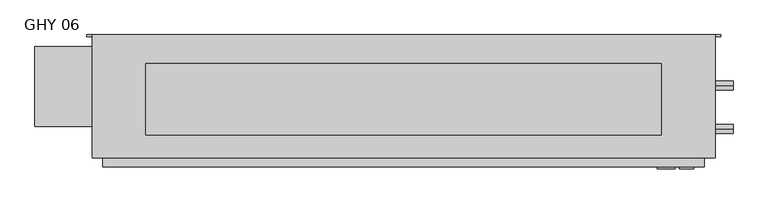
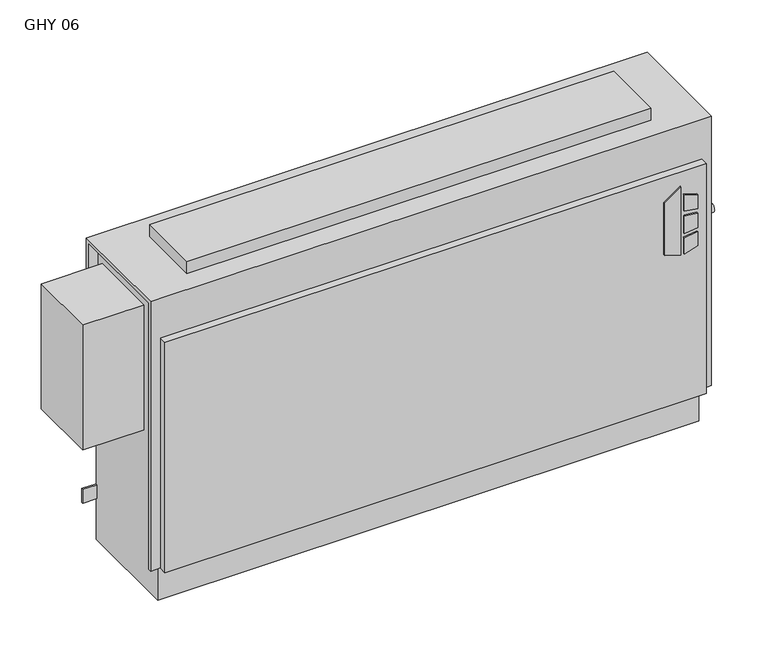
"""IFC4 building model written with IfcOpenShell, lengths in millimetres: proxy geometry, Vertical_Fan_Coil_Unit_-_GHY_-_IEC_-_2-Pipe_TS-FR_RH_2022 : GHY 06."""

import ifcopenshell
import ifcopenshell.guid

model = None  # the IFC model being written
_history = None  # IfcOwnerHistory: only IFC2X3 demands one
_inside = {}  # id of a spatial element -> (the spatial element, [elements in it])
_under = {}  # id of a project, library or spatial element -> (it, [spatial elements below it])
_declared = {}  # id of a project -> (the project, [libraries it declares])
_typed = {}  # id of a type object -> (the type object, [elements of that type])
_made_of = {}  # id of a material, layer set ... -> (it, [elements and type objects made of it])


def new_model(schema):
    """Start an empty IFC model of exactly this schema.

    Asked for "IFC4X3", IfcOpenShell would pick the latest addendum, in which some entities
    have other attributes; the version numbers below select the first issue.
    IFC2X3 requires an IfcOwnerHistory on every rooted entity: one is made here for all.
    """
    global model, _history
    if schema == "IFC4X3":
        model = ifcopenshell.file(schema_version=(4, 3, 0, 0))
    else:
        model = ifcopenshell.file(schema=schema)
    _inside.clear()
    _under.clear()
    _declared.clear()
    _typed.clear()
    _made_of.clear()
    _history = None
    if model.schema == "IFC2X3":
        org = make("IfcOrganization", Name="unknown")
        user = make(
            "IfcPersonAndOrganization",
            ThePerson=make("IfcPerson", FamilyName="unknown"),
            TheOrganization=org,
        )
        app = make(
            "IfcApplication",
            ApplicationDeveloper=org,
            Version="unknown",
            ApplicationFullName="unknown",
            ApplicationIdentifier="unknown",
        )
        _history = make(
            "IfcOwnerHistory",
            OwningUser=user,
            OwningApplication=app,
            ChangeAction="ADDED",
            CreationDate=0,
        )
    return model


def make(cls, **values):
    """One entity of the class cls with the attributes given. An attribute that is None is left unset."""
    return model.create_entity(
        cls, **{name: value for name, value in values.items() if value is not None}
    )


def rooted(cls, **values):
    """An entity with a GlobalId (a new one), such as an element, a storey or a relation."""
    return make(cls, GlobalId=ifcopenshell.guid.new(), OwnerHistory=_history, **values)


def si_unit(unit_type, name, prefix=None):
    """IfcSIUnit, for example si_unit("LENGTHUNIT", "METRE", prefix="MILLI")."""
    return make("IfcSIUnit", UnitType=unit_type, Prefix=prefix, Name=name)


def assignment(units):
    """IfcUnitAssignment: the units of a project."""
    return None if units is None else make("IfcUnitAssignment", Units=units)


def point(xyz):
    """IfcCartesianPoint."""
    return None if xyz is None else make("IfcCartesianPoint", Coordinates=xyz)


def direction(xyz):
    """IfcDirection."""
    return None if xyz is None else make("IfcDirection", DirectionRatios=xyz)


def frame(location, z_axis=None, x_axis=None):
    """IfcAxis2Placement3D, a coordinate frame: its origin and axes. An axis left out is left unset."""
    return make(
        "IfcAxis2Placement3D",
        Location=point(location),
        Axis=direction(z_axis),
        RefDirection=direction(x_axis),
    )


def frame_2d(location, x_axis=None):
    """IfcAxis2Placement2D, a coordinate frame in the plane: its origin and x axis."""
    return make(
        "IfcAxis2Placement2D", Location=point(location), RefDirection=direction(x_axis)
    )


def origin():
    """The frame at (0, 0, 0) with its axes left unset."""
    return frame((0.0, 0.0, 0.0))


def place(relative_to, where):
    """IfcLocalPlacement: puts the frame where relative to a parent placement (None: the world)."""
    return make(
        "IfcLocalPlacement", PlacementRelTo=relative_to, RelativePlacement=where
    )


def context(
    kind, dimensions, precision=None, world=None, true_north=None, identifier=None
):
    """IfcGeometricRepresentationContext, for example the 3D "Model" context."""
    return make(
        "IfcGeometricRepresentationContext",
        ContextIdentifier=identifier,
        ContextType=kind,
        CoordinateSpaceDimension=dimensions,
        Precision=precision,
        WorldCoordinateSystem=world,
        TrueNorth=true_north,
    )


def project(units=None, contexts=None):
    """IfcProject with its units and contexts."""
    return rooted(
        "IfcProject",
        Name="project",
        RepresentationContexts=contexts,
        UnitsInContext=assignment(units),
    )


def spatial(cls, under=None, at=None, **own):
    """A site, building, storey or space (cls), placed at a placement, below another one or the project."""
    s = rooted(cls, ObjectPlacement=at, **own)
    if under is not None:
        _under.setdefault(under.id(), (under, []))[1].append(s)
    return s


def polyline(points):
    """IfcPolyline through the points."""
    return make("IfcPolyline", Points=[point(p) for p in points])


def circle_curve(where, radius):
    """IfcCircle in the frame where."""
    return make("IfcCircle", Position=where, Radius=radius)


def trimmed(basis, trim1, trim2, sense, master):
    """IfcTrimmedCurve: the piece of a basis curve between two trims."""
    return make(
        "IfcTrimmedCurve",
        BasisCurve=basis,
        Trim1=trim1,
        Trim2=trim2,
        SenseAgreement=sense,
        MasterRepresentation=master,
    )


def segment(curve, same_sense, transition):
    """IfcCompositeCurveSegment."""
    return make(
        "IfcCompositeCurveSegment",
        Transition=transition,
        SameSense=same_sense,
        ParentCurve=curve,
    )


def composite_curve(segments, self_intersect=None):
    """IfcCompositeCurve: segments joined end to end."""
    return make("IfcCompositeCurve", Segments=segments, SelfIntersect=self_intersect)


def outline(outer, holes=None, kind="AREA"):
    """IfcArbitraryClosedProfileDef: a profile drawn as a closed curve; with holes, ...WithVoids."""
    if holes is None:
        return make("IfcArbitraryClosedProfileDef", ProfileType=kind, OuterCurve=outer)
    return make(
        "IfcArbitraryProfileDefWithVoids",
        ProfileType=kind,
        OuterCurve=outer,
        InnerCurves=holes,
    )


def extrude(swept, where, along, depth):
    """IfcExtrudedAreaSolid: the profile swept, set in the frame where, extruded along a direction by depth."""
    return make(
        "IfcExtrudedAreaSolid",
        SweptArea=swept,
        Position=where,
        ExtrudedDirection=direction(along),
        Depth=depth,
    )


def shape(context_of_items, identifier, shape_type, items):
    """IfcShapeRepresentation: the items that make up one representation, for example the "Body"."""
    return make(
        "IfcShapeRepresentation",
        ContextOfItems=context_of_items,
        RepresentationIdentifier=identifier,
        RepresentationType=shape_type,
        Items=items,
    )


def source(mapping_origin, context_of_items, identifier, shape_type, items):
    """IfcRepresentationMap: a shape defined once, which mapped items show again and again."""
    return make(
        "IfcRepresentationMap",
        MappingOrigin=mapping_origin,
        MappedRepresentation=shape(context_of_items, identifier, shape_type, items),
    )


def transform(
    local_origin,
    x_axis=None,
    y_axis=None,
    z_axis=None,
    scale=None,
    scale2=None,
    scale3=None,
    uniform=True,
):
    """IfcCartesianTransformationOperator3D, or its non-uniform kind. x_axis, y_axis, z_axis: its Axis1, 2, 3."""
    if uniform:
        return make(
            "IfcCartesianTransformationOperator3D",
            Axis1=direction(x_axis),
            Axis2=direction(y_axis),
            LocalOrigin=point(local_origin),
            Scale=scale,
            Axis3=direction(z_axis),
        )
    return make(
        "IfcCartesianTransformationOperator3DnonUniform",
        Axis1=direction(x_axis),
        Axis2=direction(y_axis),
        LocalOrigin=point(local_origin),
        Scale=scale,
        Axis3=direction(z_axis),
        Scale2=scale2,
        Scale3=scale3,
    )


def mapped(mapping_source, mapping_target):
    """IfcMappedItem: shows the shape of a source again, moved by a transform."""
    return make(
        "IfcMappedItem", MappingSource=mapping_source, MappingTarget=mapping_target
    )


def made_of(thing, what):
    """Note that an element or type object is made of a material, layer set ...; save() writes the relation."""
    if what is not None:
        _made_of.setdefault(what.id(), (what, []))[1].append(thing)
    return thing


def element(
    cls,
    number,
    at=None,
    inside=None,
    cuts=None,
    type_object=None,
    material=None,
    context=None,
    identifier="Body",
    shape_type=None,
    held_by="IfcProductDefinitionShape",
    body=None,
    shapes=None,
    **own,
):
    """One element of the class cls, such as IfcWall. Its Tag is "e" and its number.

    at: its placement. inside: the storey or other place that contains it. cuts: it is an
    opening in that element (IfcRelVoidsElement). A single representation is given by context,
    identifier, shape_type and body (its items); several are given by shapes. held_by: the class
    of the entity that holds the representations. save() writes the other relations.
    """
    e = rooted(cls, Tag="e%d" % number, ObjectPlacement=at, **own)
    if body is not None:
        shapes = [shape(context, identifier, shape_type, body)]
    if shapes is not None:
        e.Representation = make(held_by, Representations=shapes)
    if inside is not None:
        _inside.setdefault(inside.id(), (inside, []))[1].append(e)
    if cuts is not None:
        rooted(
            "IfcRelVoidsElement", RelatingBuildingElement=cuts, RelatedOpeningElement=e
        )
    if type_object is not None:
        _typed.setdefault(type_object.id(), (type_object, []))[1].append(e)
    return made_of(e, material)


def aggregate(whole, parts):
    """IfcRelAggregates: a whole, such as a stair, and the parts it consists of."""
    return rooted("IfcRelAggregates", RelatingObject=whole, RelatedObjects=parts)


def save(model, path):
    """Write the relations noted so far, then the file.

    IfcRelAggregates (storeys below a building ...), IfcRelContainedInSpatialStructure (elements
    in a storey), IfcRelDefinesByType, IfcRelAssociatesMaterial and IfcRelDeclares: one each for
    every whole, place, type object, material and project.
    """
    for whole, parts in _under.values():
        aggregate(whole, parts)
    for where, things in _inside.values():
        rooted(
            "IfcRelContainedInSpatialStructure",
            RelatedElements=things,
            RelatingStructure=where,
        )
    for kind, things in _typed.values():
        rooted("IfcRelDefinesByType", RelatedObjects=things, RelatingType=kind)
    for what, things in _made_of.values():
        rooted("IfcRelAssociatesMaterial", RelatedObjects=things, RelatingMaterial=what)
    for by, libraries in _declared.values():
        rooted("IfcRelDeclares", RelatingContext=by, RelatedDefinitions=libraries)
    model.write(path)


def plane_surface(at):
    """IfcPlane: the flat surface through the origin of the frame at, square to its z axis."""
    return make("IfcPlane", Position=at)


def revolved_surface(curve, axis_point, axis_direction):
    """IfcSurfaceOfRevolution: the curve turned about the line through axis_point along axis_direction."""
    return make(
        "IfcSurfaceOfRevolution",
        SweptCurve=make("IfcArbitraryOpenProfileDef", ProfileType="CURVE", Curve=curve),
        AxisPosition=make("IfcAxis1Placement", Location=point(axis_point), Axis=direction(axis_direction)),
    )


def advanced_brep(points, edges, surfaces, faces):
    """IfcAdvancedBrep: a solid bounded by faces that lie on surfaces and meet in shared edges.

    An edge is (start, end): straight between two places in points (the first is 0);
    or (start, end, curve); or (start, end, curve, False) where it runs against its curve.
    A face is (place in surfaces, loops), or (place, loops, False) where it looks against
    its surface's normal. A loop lists edges by number (the first is 1), with a minus sign
    where the edge is run from its end to its start. The first loop is the outer one.
    """
    corners = [point(p) for p in points]
    vertices = [make("IfcVertexPoint", VertexGeometry=c) for c in corners]
    made = []
    for start, end, *more in edges:
        made.append(
            make(
                "IfcEdgeCurve",
                EdgeStart=vertices[start],
                EdgeEnd=vertices[end],
                EdgeGeometry=more[0] if more else make("IfcPolyline", Points=[corners[start], corners[end]]),
                SameSense=more[1] if len(more) > 1 else True,
            )
        )
    hull = []
    for where, loops, *sense in faces:
        bounds = []
        for j, loop in enumerate(loops):
            ring = [make("IfcOrientedEdge", EdgeElement=made[abs(k) - 1], Orientation=k > 0) for k in loop]
            bounds.append(
                make(
                    "IfcFaceOuterBound" if j == 0 else "IfcFaceBound",
                    Bound=make("IfcEdgeLoop", EdgeList=ring),
                    Orientation=True,
                )
            )
        hull.append(make("IfcAdvancedFace", Bounds=bounds, FaceSurface=surfaces[where], SameSense=sense[0] if sense else True))
    return make("IfcAdvancedBrep", Outer=make("IfcClosedShell", CfsFaces=hull))


def ghy_06_6341c722(model_context):
    return source(origin(), model_context, "Body", "SolidModel", [
        extrude(outline(polyline([(391.6086829, 601.7368862), (381.6606126, 633.9102728), (523.831537, 633.9102728), (500.8095309, 601.7368862), (391.6086829, 601.7368862)])), frame((0.0, 6.35, 0.0), z_axis=(0.0, 1.0, 0.0), x_axis=(0.0, 0.0, 1.0)), (0.0, 0.0, 1.0), 3.175),
        extrude(outline(polyline([(470.6079683, 640.6686058), (467.4055757, 666.75), (496.6344168, 666.75), (504.6988318, 640.6686058), (470.6079683, 640.6686058)])), frame((0.0, 6.35, 0.0), z_axis=(0.0, 1.0, 0.0), x_axis=(0.0, 0.0, 1.0)), (0.0, 0.0, 1.0), 3.175),
        extrude(outline(polyline([(418.7444414, 666.75), (415.0789404, 640.6686058), (381.6606126, 640.6686058), (390.2948498, 666.75), (418.7444414, 666.75)])), frame((0.0, 6.35, 0.0), z_axis=(0.0, 1.0, 0.0), x_axis=(0.0, 0.0, 1.0)), (0.0, 0.0, 1.0), 3.175),
        extrude(outline(polyline([(458.0596028, 666.75), (460.3414292, 640.6686058), (424.4038806, 640.6686058), (427.1451456, 666.75), (458.0596028, 666.75)])), frame((0.0, 6.35, 0.0), z_axis=(0.0, 1.0, 0.0), x_axis=(0.0, 0.0, 1.0)), (0.0, 0.0, 1.0), 3.175),
        extrude(outline(polyline([(609.6, 193.675), (609.6, 66.675), (-304.8, 66.675), (-304.8, 193.675), (609.6, 193.675)])), frame((0.0, 0.0, 635.0), z_axis=(0.0, 0.0, 1.0), x_axis=(1.0, 0.0, 0.0)), (0.0, 0.0, 1.0), 25.4),
        extrude(outline(composite_curve([segment(trimmed(circle_curve(frame_2d((77.597, 401.574)), 7.9375), [point((77.597, 393.6365))], [point((77.597, 409.5115))], False, "CARTESIAN"), True, "CONTINUOUS"), segment(trimmed(circle_curve(frame_2d((77.597, 401.574)), 7.9375), [point((77.597, 409.5115))], [point((77.597, 393.6365))], False, "CARTESIAN"), True, "CONTINUOUS")], self_intersect=False)), frame((685.8, 0.0, 0.0), z_axis=(1.0, 0.0, 0.0), x_axis=(0.0, 1.0, 0.0)), (0.0, 0.0, 1.0), 50.8),
        extrude(outline(composite_curve([segment(trimmed(circle_curve(frame_2d((154.559, 540.512)), 7.9375), [point((154.559, 532.5745))], [point((154.559, 548.4495))], False, "CARTESIAN"), True, "CONTINUOUS"), segment(trimmed(circle_curve(frame_2d((154.559, 540.512)), 7.9375), [point((154.559, 548.4495))], [point((154.559, 532.5745))], False, "CARTESIAN"), True, "CONTINUOUS")], self_intersect=False)), frame((685.8, 0.0, 0.0), z_axis=(1.0, 0.0, 0.0), x_axis=(0.0, 1.0, 0.0)), (0.0, 0.0, 1.0), 50.8),
        extrude(outline(polyline([(-501.65, 223.266), (-381.0, 223.266), (-381.0, 81.534), (-501.65, 81.534), (-501.65, 223.266)])), frame((0.0, 0.0, 327.025), z_axis=(0.0, 0.0, 1.0), x_axis=(1.0, 0.0, 0.0)), (0.0, 0.0, 1.0), 260.35),
        advanced_brep(
        [(704.85, 244.475, 635.0), (-400.05, 244.475, 635.0), (-400.05, 25.4, 635.0), (704.85, 25.4, 635.0), (-381.0, 244.475, 0.0), (685.8, 244.475, 0.0), (685.8, 34.925, 0.0), (-381.0, 34.925, 0.0), (704.85, 244.475, 558.8), (685.8, 244.475, 558.8), (685.8, 244.475, 414.3375), (714.375, 244.475, 414.3375), (714.375, 244.475, 385.7625), (685.8, 244.475, 385.7625), (685.8, 244.475, 287.3375), (714.375, 244.475, 287.3375), (714.375, 244.475, 258.7625), (685.8, 244.475, 258.7625), (685.8, 244.475, 141.2875), (714.375, 244.475, 141.2875), (714.375, 244.475, 112.7125), (685.8, 244.475, 112.7125), (-381.0, 244.475, 87.3125), (-409.575, 244.475, 87.3125), (-409.575, 244.475, 115.8875), (-381.0, 244.475, 115.8875), (-381.0, 244.475, 258.7625), (-409.575, 244.475, 258.7625), (-409.575, 244.475, 287.3375), (-381.0, 244.475, 287.3375), (-381.0, 244.475, 385.7625), (-409.575, 244.475, 385.7625), (-409.575, 244.475, 414.3375), (-381.0, 244.475, 414.3375), (-381.0, 244.475, 558.8), (-400.05, 244.475, 558.8), (704.0626, 244.475, 127.0), (692.9374, 244.475, 127.0), (704.0626, 244.475, 273.05), (692.9374, 244.475, 273.05), (-388.1374, 244.475, 273.05), (-399.2626, 244.475, 273.05), (704.0626, 244.475, 400.05), (692.9374, 244.475, 400.05), (-388.1374, 244.475, 400.05), (-399.2626, 244.475, 400.05), (-400.05, 238.125, 558.8), (-400.05, 238.125, 628.65), (-400.05, 31.75, 628.65), (-400.05, 31.75, 73.025), (-400.05, 25.4, 73.025), (685.8, 9.525, 552.45), (-381.0, 9.525, 552.45), (-381.0, 9.525, 73.025), (685.8, 9.525, 73.025), (704.85, 25.4, 73.025), (704.85, 31.75, 73.025), (704.85, 31.75, 628.65), (704.85, 238.125, 628.65), (704.85, 238.125, 558.8), (-381.0, 25.4, 73.025), (-381.0, 25.4, 552.45), (685.8, 25.4, 552.45), (685.8, 25.4, 73.025), (-381.0, 31.75, 73.025), (-381.0, 34.925, 73.025), (685.8, 34.925, 73.025), (685.8, 31.75, 73.025), (685.8, 241.3, 112.7125), (685.8, 241.3, 141.2875), (685.8, 241.3, 258.7625), (685.8, 241.3, 287.3375), (685.8, 241.3, 385.7625), (685.8, 241.3, 414.3375), (685.8, 238.125, 558.8), (685.8, 238.125, 628.65), (685.8, 31.75, 628.65), (-381.0, 31.75, 628.65), (-381.0, 238.125, 628.65), (-381.0, 238.125, 558.8), (-381.0, 241.3, 414.3375), (-381.0, 241.3, 385.7625), (-381.0, 241.3, 287.3375), (-381.0, 241.3, 258.7625), (-381.0, 241.3, 115.8875), (-381.0, 241.3, 87.3125), (714.375, 241.3, 112.7125), (714.375, 241.3, 141.2875), (692.9374, 241.3, 127.0), (704.0626, 241.3, 127.0), (714.375, 241.3, 258.7625), (714.375, 241.3, 287.3375), (692.9374, 241.3, 273.05), (704.0626, 241.3, 273.05), (714.375, 241.3, 385.7625), (714.375, 241.3, 414.3375), (692.9374, 241.3, 400.05), (704.0626, 241.3, 400.05), (-409.575, 241.3, 115.8875), (-409.575, 241.3, 87.3125), (-409.575, 241.3, 287.3375), (-409.575, 241.3, 258.7625), (-399.2626, 241.3, 273.05), (-388.1374, 241.3, 273.05), (-409.575, 241.3, 414.3375), (-409.575, 241.3, 385.7625), (-399.2626, 241.3, 400.05), (-388.1374, 241.3, 400.05)],
        [
            (0, 1),
            (1, 2),
            (2, 3),
            (3, 0),
            (4, 5),
            (5, 6),
            (6, 7),
            (7, 4),
            (0, 8),
            (8, 9),
            (9, 10),
            (10, 11),
            (11, 12),
            (12, 13),
            (13, 14),
            (14, 15),
            (15, 16),
            (16, 17),
            (17, 18),
            (18, 19),
            (19, 20),
            (20, 21),
            (21, 5),
            (4, 22),
            (22, 23),
            (23, 24),
            (24, 25),
            (25, 26),
            (26, 27),
            (27, 28),
            (28, 29),
            (29, 30),
            (30, 31),
            (31, 32),
            (32, 33),
            (33, 34),
            (34, 35),
            (35, 1),
            (36, 37, circle_curve(frame((698.5, 244.475, 127.0), z_axis=(0.0, -1.0, 0.0), x_axis=(-1.0, 0.0, 0.0)), 5.5626)),
            (37, 36, circle_curve(frame((698.5, 244.475, 127.0), z_axis=(0.0, -1.0, 0.0), x_axis=(-1.0, 0.0, 0.0)), 5.5626)),
            (38, 39, circle_curve(frame((698.5, 244.475, 273.05), z_axis=(0.0, -1.0, 0.0), x_axis=(-1.0, 0.0, 0.0)), 5.5626)),
            (39, 38, circle_curve(frame((698.5, 244.475, 273.05), z_axis=(0.0, -1.0, 0.0), x_axis=(-1.0, 0.0, 0.0)), 5.5626)),
            (40, 41, circle_curve(frame((-393.7, 244.475, 273.05), z_axis=(0.0, -1.0, 0.0), x_axis=(-1.0, 0.0, 0.0)), 5.5626)),
            (41, 40, circle_curve(frame((-393.7, 244.475, 273.05), z_axis=(0.0, -1.0, 0.0), x_axis=(-1.0, 0.0, 0.0)), 5.5626)),
            (42, 43, circle_curve(frame((698.5, 244.475, 400.05), z_axis=(0.0, -1.0, 0.0), x_axis=(-1.0, 0.0, 0.0)), 5.5626)),
            (43, 42, circle_curve(frame((698.5, 244.475, 400.05), z_axis=(0.0, -1.0, 0.0), x_axis=(-1.0, 0.0, 0.0)), 5.5626)),
            (44, 45, circle_curve(frame((-393.7, 244.475, 400.05), z_axis=(0.0, -1.0, 0.0), x_axis=(-1.0, 0.0, 0.0)), 5.5626)),
            (45, 44, circle_curve(frame((-393.7, 244.475, 400.05), z_axis=(0.0, -1.0, 0.0), x_axis=(-1.0, 0.0, 0.0)), 5.5626)),
            (35, 46),
            (46, 47),
            (47, 48),
            (48, 49),
            (49, 50),
            (50, 2),
            (51, 52),
            (52, 53),
            (53, 54),
            (54, 51),
            (3, 55),
            (55, 56),
            (56, 57),
            (57, 58),
            (58, 59),
            (59, 8),
            (50, 60),
            (60, 61),
            (61, 62),
            (62, 63),
            (63, 55),
            (51, 62),
            (61, 52),
            (53, 60),
            (49, 64),
            (64, 65),
            (65, 66),
            (66, 67),
            (67, 56),
            (63, 54),
            (6, 66),
            (65, 7),
            (21, 68),
            (68, 69),
            (69, 18),
            (17, 70),
            (70, 71),
            (71, 14),
            (13, 72),
            (72, 73),
            (73, 10),
            (9, 74),
            (74, 75),
            (75, 76),
            (76, 67),
            (64, 77),
            (77, 78),
            (78, 79),
            (79, 34),
            (33, 80),
            (80, 81),
            (81, 30),
            (29, 82),
            (82, 83),
            (83, 26),
            (25, 84),
            (84, 85),
            (85, 22),
            (74, 59),
            (58, 75),
            (76, 57),
            (48, 77),
            (79, 46),
            (78, 47),
            (68, 86),
            (86, 87),
            (87, 69),
            (88, 89, circle_curve(frame((698.5, 241.3, 127.0), z_axis=(0.0, 1.0, 0.0), x_axis=(-1.0, 0.0, 0.0)), 5.5626)),
            (89, 88, circle_curve(frame((698.5, 241.3, 127.0), z_axis=(0.0, 1.0, 0.0), x_axis=(-1.0, 0.0, 0.0)), 5.5626)),
            (90, 91),
            (91, 71),
            (70, 90),
            (92, 93, circle_curve(frame((698.5, 241.3, 273.05), z_axis=(0.0, 1.0, 0.0), x_axis=(-1.0, 0.0, 0.0)), 5.5626)),
            (93, 92, circle_curve(frame((698.5, 241.3, 273.05), z_axis=(0.0, 1.0, 0.0), x_axis=(-1.0, 0.0, 0.0)), 5.5626)),
            (94, 95),
            (95, 73),
            (72, 94),
            (96, 97, circle_curve(frame((698.5, 241.3, 400.05), z_axis=(0.0, 1.0, 0.0), x_axis=(-1.0, 0.0, 0.0)), 5.5626)),
            (97, 96, circle_curve(frame((698.5, 241.3, 400.05), z_axis=(0.0, 1.0, 0.0), x_axis=(-1.0, 0.0, 0.0)), 5.5626)),
            (98, 99),
            (99, 85),
            (84, 98),
            (82, 100),
            (100, 101),
            (101, 83),
            (102, 103, circle_curve(frame((-393.7, 241.3, 273.05), z_axis=(0.0, 1.0, 0.0), x_axis=(-1.0, 0.0, 0.0)), 5.5626)),
            (103, 102, circle_curve(frame((-393.7, 241.3, 273.05), z_axis=(0.0, 1.0, 0.0), x_axis=(-1.0, 0.0, 0.0)), 5.5626)),
            (104, 105),
            (105, 81),
            (80, 104),
            (106, 107, circle_curve(frame((-393.7, 241.3, 400.05), z_axis=(0.0, 1.0, 0.0), x_axis=(-1.0, 0.0, 0.0)), 5.5626)),
            (107, 106, circle_curve(frame((-393.7, 241.3, 400.05), z_axis=(0.0, 1.0, 0.0), x_axis=(-1.0, 0.0, 0.0)), 5.5626)),
            (87, 19),
            (86, 20),
            (16, 90),
            (91, 15),
            (12, 94),
            (95, 11),
            (24, 98),
            (99, 23),
            (101, 27),
            (100, 28),
            (32, 104),
            (105, 31),
            (88, 37),
            (36, 89),
            (92, 39),
            (38, 93),
            (102, 41),
            (40, 103),
            (96, 43),
            (42, 97),
            (106, 45),
            (44, 107),
        ],
        [
            plane_surface(frame((-400.05, 244.475, 635.0), z_axis=(0.0, 0.0, 1.0), x_axis=(-1.0, 0.0, 0.0))),
            plane_surface(frame((-400.05, 244.475, 0.0), z_axis=(0.0, 0.0, -1.0), x_axis=(1.0, 0.0, 0.0))),
            plane_surface(frame((704.85, 244.475, 635.0), z_axis=(0.0, 1.0, 0.0), x_axis=(0.0, 0.0, -1.0))),
            plane_surface(frame((-400.05, 244.475, 635.0), z_axis=(-1.0, 0.0, 0.0), x_axis=(0.0, 0.0, -1.0))),
            plane_surface(frame((-400.05, 9.525, 635.0), z_axis=(0.0, -1.0, 0.0), x_axis=(0.0, 0.0, -1.0))),
            plane_surface(frame((704.85, 9.525, 635.0), z_axis=(1.0, 0.0, 0.0), x_axis=(0.0, 0.0, -1.0))),
            plane_surface(frame((-654.05, 25.4, 635.0), z_axis=(0.0, -1.0, 0.0), x_axis=(1.0, 0.0, 0.0))),
            plane_surface(frame((-654.05, 25.4, 552.45), z_axis=(0.0, 0.0, 1.0), x_axis=(1.0, 0.0, 0.0))),
            plane_surface(frame((-400.05, 9.525, 73.025), z_axis=(0.0, 0.0, -1.0), x_axis=(1.0, 0.0, 0.0))),
            plane_surface(frame((-400.05, 34.925, 73.025), z_axis=(0.0, -1.0, 0.0), x_axis=(1.0, 0.0, 0.0))),
            plane_surface(frame((685.8, 25.4, 73.025), z_axis=(1.0, 0.0, 0.0), x_axis=(0.0, -1.0, 0.0))),
            plane_surface(frame((-381.0, 25.4, 552.45), z_axis=(-1.0, 0.0, 0.0), x_axis=(0.0, -1.0, 0.0))),
            plane_surface(frame((685.8, 244.475, 0.0), z_axis=(1.0, 0.0, 0.0), x_axis=(0.0, -1.0, 0.0))),
            plane_surface(frame((-381.0, 244.475, 73.025), z_axis=(-1.0, 0.0, 0.0), x_axis=(0.0, -1.0, 0.0))),
            plane_surface(frame((685.8, 238.125, 628.65), z_axis=(0.0, -1.0, 0.0), x_axis=(1.0, 0.0, 0.0))),
            plane_surface(frame((685.8, 238.125, 558.8), z_axis=(0.0, 0.0, -1.0), x_axis=(1.0, 0.0, 0.0))),
            plane_surface(frame((685.8, 31.75, 73.025), z_axis=(0.0, 1.0, 0.0), x_axis=(1.0, 0.0, 0.0))),
            plane_surface(frame((685.8, 31.75, 628.65), z_axis=(0.0, 0.0, -1.0), x_axis=(1.0, 0.0, 0.0))),
            plane_surface(frame((-381.0, 31.75, 628.65), z_axis=(0.0, 1.0, 0.0), x_axis=(-1.0, 0.0, 0.0))),
            plane_surface(frame((-381.0, 244.475, 558.8), z_axis=(0.0, 0.0, -1.0), x_axis=(-1.0, 0.0, 0.0))),
            plane_surface(frame((-381.0, 238.125, 558.8), z_axis=(0.0, -1.0, 0.0), x_axis=(-1.0, 0.0, 0.0))),
            plane_surface(frame((-381.0, 238.125, 628.65), z_axis=(0.0, 0.0, -1.0), x_axis=(-1.0, 0.0, 0.0))),
            plane_surface(frame((714.375, 241.3, 141.2875), z_axis=(0.0, -1.0, 0.0), x_axis=(-1.0, 0.0, 0.0))),
            plane_surface(frame((685.8, 244.475, 141.2875), z_axis=(0.0, 0.0, 1.0), x_axis=(0.0, -1.0, 0.0))),
            plane_surface(frame((714.375, 244.475, 141.2875), z_axis=(1.0, 0.0, 0.0), x_axis=(0.0, -1.0, 0.0))),
            plane_surface(frame((714.375, 244.475, 112.7125), z_axis=(0.0, 0.0, -1.0), x_axis=(0.0, -1.0, 0.0))),
            plane_surface(frame((714.375, 244.475, 258.7625), z_axis=(0.0, 0.0, -1.0), x_axis=(0.0, -1.0, 0.0))),
            plane_surface(frame((685.8, 244.475, 287.3375), z_axis=(0.0, 0.0, 1.0), x_axis=(0.0, -1.0, 0.0))),
            plane_surface(frame((714.375, 244.475, 287.3375), z_axis=(1.0, 0.0, 0.0), x_axis=(0.0, -1.0, 0.0))),
            plane_surface(frame((714.375, 244.475, 385.7625), z_axis=(0.0, 0.0, -1.0), x_axis=(0.0, -1.0, 0.0))),
            plane_surface(frame((685.8, 244.475, 414.3375), z_axis=(0.0, 0.0, 1.0), x_axis=(0.0, -1.0, 0.0))),
            plane_surface(frame((714.375, 244.475, 414.3375), z_axis=(1.0, 0.0, 0.0), x_axis=(0.0, -1.0, 0.0))),
            plane_surface(frame((-409.575, 244.475, 115.8875), z_axis=(0.0, 0.0, 1.0), x_axis=(0.0, -1.0, 0.0))),
            plane_surface(frame((-381.0, 244.475, 87.3125), z_axis=(0.0, 0.0, -1.0), x_axis=(0.0, -1.0, 0.0))),
            plane_surface(frame((-409.575, 244.475, 87.3125), z_axis=(-1.0, 0.0, 0.0), x_axis=(0.0, -1.0, 0.0))),
            plane_surface(frame((-381.0, 244.475, 258.7625), z_axis=(0.0, 0.0, -1.0), x_axis=(0.0, -1.0, 0.0))),
            plane_surface(frame((-409.575, 244.475, 258.7625), z_axis=(-1.0, 0.0, 0.0), x_axis=(0.0, -1.0, 0.0))),
            plane_surface(frame((-409.575, 244.475, 287.3375), z_axis=(0.0, 0.0, 1.0), x_axis=(0.0, -1.0, 0.0))),
            plane_surface(frame((-409.575, 244.475, 414.3375), z_axis=(0.0, 0.0, 1.0), x_axis=(0.0, -1.0, 0.0))),
            plane_surface(frame((-381.0, 244.475, 385.7625), z_axis=(0.0, 0.0, -1.0), x_axis=(0.0, -1.0, 0.0))),
            plane_surface(frame((-409.575, 244.475, 385.7625), z_axis=(-1.0, 0.0, 0.0), x_axis=(0.0, -1.0, 0.0))),
            revolved_surface(polyline([(692.9374, 241.3, 127.0), (692.9374, 244.475, 127.0)]), (698.5, 244.475, 127.0), (0.0, -1.0, 0.0)),
            revolved_surface(polyline([(692.9374, 241.3, 273.05), (692.9374, 244.475, 273.05)]), (698.5, 244.475, 273.05), (0.0, -1.0, 0.0)),
            revolved_surface(polyline([(-399.26259999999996, 241.3, 273.05), (-399.26259999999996, 244.475, 273.05)]), (-393.7, 244.475, 273.05), (0.0, -1.0, 0.0)),
            revolved_surface(polyline([(692.9374, 241.3, 400.05), (692.9374, 244.475, 400.05)]), (698.5, 244.475, 400.05), (0.0, -1.0, 0.0)),
            revolved_surface(polyline([(-399.26259999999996, 241.3, 400.05), (-399.26259999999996, 244.475, 400.05)]), (-393.7, 244.475, 400.05), (0.0, -1.0, 0.0)),
        ],
        [
            (0, [[1, 2, 3, 4]]),
            (1, [[5, 6, 7, 8]]),
            (2, [[-1, 9, 10, 11, 12, 13, 14, 15, 16, 17, 18, 19, 20, 21, 22, 23, -5, 24, 25, 26, 27, 28, 29, 30, 31, 32, 33, 34, 35, 36, 37, 38], [39, 40], [41, 42], [43, 44], [45, 46], [47, 48]]),
            (3, [[-2, -38, 49, 50, 51, 52, 53, 54]]),
            (4, [[55, 56, 57, 58]]),
            (5, [[-4, 59, 60, 61, 62, 63, 64, -9]]),
            (6, [[-3, -54, 65, 66, 67, 68, 69, -59]]),
            (7, [[-55, 70, -67, 71]]),
            (8, [[-57, 72, -65, -53, 73, 74, 75, 76, 77, -60, -69, 78]]),
            (9, [[-7, 79, -75, 80]]),
            (10, [[-68, -70, -58, -78]]),
            (11, [[-66, -72, -56, -71]]),
            (12, [[-6, -23, 81, 82, 83, -19, 84, 85, 86, -15, 87, 88, 89, -11, 90, 91, 92, 93, -76, -79]]),
            (13, [[-8, -80, -74, 94, 95, 96, 97, -36, 98, 99, 100, -32, 101, 102, 103, -28, 104, 105, 106, -24]]),
            (14, [[-91, 107, -63, 108]]),
            (15, [[-90, -10, -64, -107]]),
            (16, [[-93, 109, -61, -77]]),
            (17, [[-92, -108, -62, -109]]),
            (18, [[-94, -73, -52, 110]]),
            (19, [[-97, 111, -49, -37]]),
            (20, [[-96, 112, -50, -111]]),
            (21, [[-95, -110, -51, -112]]),
            (22, [[113, 114, 115, -82], [116, 117]]),
            (22, [[118, 119, -85, 120], [121, 122]]),
            (22, [[123, 124, -88, 125], [126, 127]]),
            (22, [[128, 129, -105, 130]]),
            (22, [[131, 132, 133, -102], [134, 135]]),
            (22, [[136, 137, -99, 138], [139, 140]]),
            (23, [[-115, 141, -20, -83]]),
            (24, [[-114, 142, -21, -141]]),
            (25, [[-113, -81, -22, -142]]),
            (26, [[-120, -84, -18, 143]]),
            (27, [[-119, 144, -16, -86]]),
            (28, [[-118, -143, -17, -144]]),
            (29, [[-125, -87, -14, 145]]),
            (30, [[-124, 146, -12, -89]]),
            (31, [[-123, -145, -13, -146]]),
            (32, [[-130, -104, -27, 147]]),
            (33, [[-129, 148, -25, -106]]),
            (34, [[-128, -147, -26, -148]]),
            (35, [[-133, 149, -29, -103]]),
            (36, [[-132, 150, -30, -149]]),
            (37, [[-131, -101, -31, -150]]),
            (38, [[-138, -98, -35, 151]]),
            (39, [[-137, 152, -33, -100]]),
            (40, [[-136, -151, -34, -152]]),
            (41, [[153, -39, 154, -116]]),
            (41, [[-153, -117, -154, -40]]),
            (42, [[155, -41, 156, -121]]),
            (42, [[-155, -122, -156, -42]]),
            (43, [[157, -43, 158, -134]]),
            (43, [[-157, -135, -158, -44]]),
            (44, [[159, -45, 160, -126]]),
            (44, [[-159, -127, -160, -46]]),
            (45, [[161, -47, 162, -139]]),
            (45, [[-161, -140, -162, -48]]),
        ],
    ),
    ])


if __name__ == "__main__":
    model = new_model("IFC4")
    model_context = context("Model", 3, world=origin())
    ifc_project = project(units=[si_unit("LENGTHUNIT", "METRE", prefix="MILLI")], contexts=[model_context])
    site = spatial("IfcSite", under=ifc_project)
    building = spatial("IfcBuilding", under=site)
    placement = place(None, origin())
    ghy_06_shape = ghy_06_6341c722(model_context)
    element("IfcBuildingElementProxy", 1, Name="Vertical_Fan_Coil_Unit_-_GHY_-_IEC_-_2-Pipe_TS-FR_RH_2022 : GHY 06", ObjectType="Vertical_Fan_Coil_Unit_-_GHY_-_IEC_-_2-Pipe_TS-FR_RH_2022 : GHY 06", at=placement, inside=building, context=model_context, shape_type="MappedRepresentation", body=[
        mapped(ghy_06_shape, transform((0.0, 0.0, 0.0), x_axis=(1.0, 0.0, 0.0), y_axis=(0.0, 1.0, 0.0), z_axis=(0.0, 0.0, 1.0))),
    ])
    save(model, "model.ifc")
